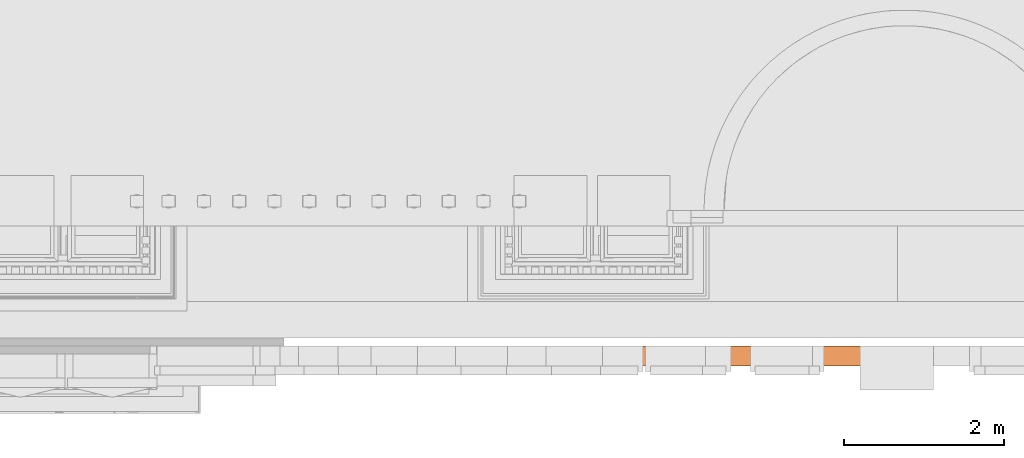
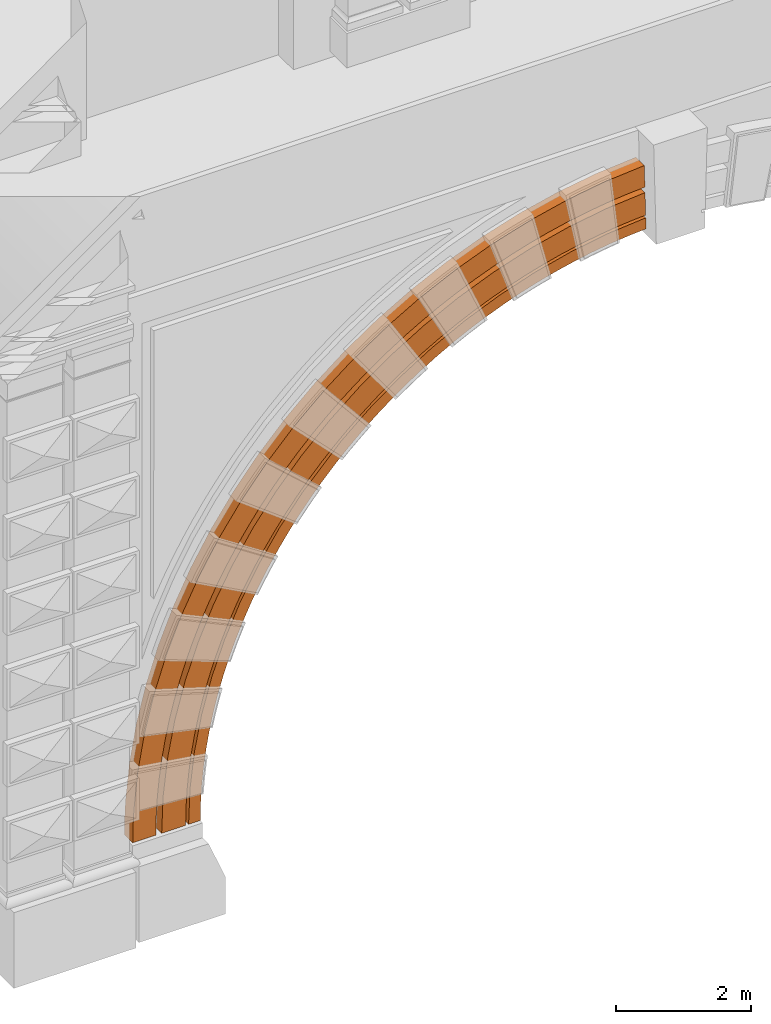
# One storey, part 26 of 44: 1 proxy.
"""IFC2X3 building model written with IfcOpenShell, lengths in metres."""

from ifc_helpers import new_model, entity, si_unit, converted_unit, derived_unit, direction, frame, origin, place, context, subcontext, project, spatial, faceted_brep, material, element, save


model = new_model("IFC2X3")

# Units and contexts
model_context = context("Model", 3, precision=1e-05, world=origin(), true_north=direction((6.12303176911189e-17, 1.0)))
body_context = subcontext(model_context, "Body", "Model", "MODEL_VIEW")
ifc_project = project(units=[si_unit("LENGTHUNIT", "METRE"), si_unit("AREAUNIT", "SQUARE_METRE"), si_unit("VOLUMEUNIT", "CUBIC_METRE"), converted_unit("PLANEANGLEUNIT", "DEGREE", entity("IfcRatioMeasure", 0.0174532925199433), si_unit("PLANEANGLEUNIT", "RADIAN"), dimensions=[0, 0, 0, 0, 0, 0, 0]), si_unit("MASSUNIT", "GRAM", prefix="KILO"), derived_unit("MASSDENSITYUNIT", [(si_unit("MASSUNIT", "GRAM", prefix="KILO"), 1), (si_unit("LENGTHUNIT", "METRE"), -3)]), si_unit("TIMEUNIT", "SECOND"), si_unit("FREQUENCYUNIT", "HERTZ"), si_unit("THERMODYNAMICTEMPERATUREUNIT", "DEGREE_CELSIUS"), derived_unit("THERMALTRANSMITTANCEUNIT", [(si_unit("MASSUNIT", "GRAM", prefix="KILO"), 1), (si_unit("THERMODYNAMICTEMPERATUREUNIT", "KELVIN"), -1), (si_unit("TIMEUNIT", "SECOND"), -3)]), derived_unit("VOLUMETRICFLOWRATEUNIT", [(si_unit("LENGTHUNIT", "METRE"), 3), (si_unit("TIMEUNIT", "SECOND"), -1)]), si_unit("ELECTRICCURRENTUNIT", "AMPERE"), si_unit("ELECTRICVOLTAGEUNIT", "VOLT"), si_unit("POWERUNIT", "WATT"), si_unit("FORCEUNIT", "NEWTON", prefix="KILO"), si_unit("ILLUMINANCEUNIT", "LUX"), si_unit("LUMINOUSFLUXUNIT", "LUMEN"), si_unit("LUMINOUSINTENSITYUNIT", "CANDELA"), derived_unit("USERDEFINED", [(si_unit("MASSUNIT", "GRAM", prefix="KILO"), -1), (si_unit("LENGTHUNIT", "METRE"), -2), (si_unit("TIMEUNIT", "SECOND"), 3), (si_unit("LUMINOUSFLUXUNIT", "LUMEN"), 1)]), derived_unit("LINEARVELOCITYUNIT", [(si_unit("LENGTHUNIT", "METRE"), 1), (si_unit("TIMEUNIT", "SECOND"), -1)]), si_unit("PRESSUREUNIT", "PASCAL"), derived_unit("USERDEFINED", [(si_unit("LENGTHUNIT", "METRE"), -2), (si_unit("MASSUNIT", "GRAM", prefix="KILO"), 1), (si_unit("TIMEUNIT", "SECOND"), -2)])], contexts=[model_context])

# Site, building, storey
site_placement = place(None, origin())
site = spatial("IfcSite", under=ifc_project, at=site_placement, Name="Default", CompositionType="ELEMENT")
building_placement = place(site_placement, origin())
building = spatial("IfcBuilding", under=site, at=building_placement, CompositionType="ELEMENT")
storey_placement = place(building_placement, origin())
storey = spatial("IfcBuildingStorey", under=building, at=storey_placement, Name="Livello 1", CompositionType="ELEMENT", Elevation=0.0)

# Proxy
ifc_material = material(Name="Travertino")
proxy_placement = place(storey_placement, frame((-9.27382478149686, -0.484467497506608, 1.634536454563)))
element("IfcBuildingElementProxy", 1, at=proxy_placement, inside=storey, material=ifc_material, Name="Stratigrafia", context=body_context, shape_type="Brep", body=[
    faceted_brep([(4.31823285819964, 0.0, 7.79170550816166), (4.63805328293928, 0.0, 7.52664900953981), (4.927465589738, 0.0, 7.69425371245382), (4.35522300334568, 0.0, 7.34816132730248), (3.76376381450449, 0.0, 7.41622764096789), (4.07938378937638, 0.0, 7.15904880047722), (5.50171563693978, 0.0, 8.41673717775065), (4.89857777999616, 0.0, 8.12580028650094), (5.22304136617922, 0.0, 7.85073304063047), (5.52435314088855, 0.0, 7.99586068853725), (3.29774781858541, 0.0, 6.53077159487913), (3.23811613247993, 0.0, 7.00136132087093), (2.74408218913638, 0.0, 6.54931042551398), (2.81863042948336, 0.0, 6.06420108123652), (3.05375247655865, 0.0, 6.30204229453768), (2.28428642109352, 0.0, 6.06247636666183), (3.8109345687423, 0.0, 6.95958492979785), (3.55026358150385, 0.0, 6.75005818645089), (8.07666089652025, 0.0, 9.12159776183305), (7.41534383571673, 0.0, 9.01633953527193), (7.75665487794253, 0.0, 8.67841648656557), (7.42777641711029, 0.0, 8.6176729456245), (7.10144539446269, 0.0, 8.54446855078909), (6.76344999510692, 0.0, 8.86319264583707), (8.08760514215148, 0.0, 8.72661132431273), (8.75380425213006, 0.0, 8.78509433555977), (8.74388808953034, 0.0, 9.17840816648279), (8.42014857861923, 0.0, 8.76218775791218), (6.12444240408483, 0.0, 8.66297064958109), (6.14243395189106, 0.0, 8.2512381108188), (6.45830909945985, 0.0, 8.36111854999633), (5.83096514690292, 0.0, 8.12942676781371), (6.7781337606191, 0.0, 8.45890917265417), (0.622892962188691, 0.0, 1.9909922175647), (0.367019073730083, 0.0, 2.5669820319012), (0.203597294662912, 0.0, 1.91758779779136), (0.0879094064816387, 0.0, 1.25801531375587), (0.496487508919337, 0.0, 1.33428590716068), (0.55344557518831, 0.0, 1.66384105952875), (0.577306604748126, 0.0, 3.20274826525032), (0.798836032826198, 0.0, 2.63619416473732), (0.905077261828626, 0.0, 2.95331184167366), (0.704729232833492, 0.0, 2.3152662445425), (0.452101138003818, 0.0, 1.0028033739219), (0.0205699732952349, 0.0, 0.591768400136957), (0.401281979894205, 0.0, 0.335975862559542), (0.00634017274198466, 0.0, 0.296834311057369), (0.394922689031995, 0.0, 0.0015952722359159), (0.0015952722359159, 0.0, 0.00159527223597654), (0.420350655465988, 0.0, 0.669872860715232), (1.86117138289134, 0.0, 5.54344533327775), (1.97347333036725, 0.0, 5.02878366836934), (2.16983737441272, 0.0, 5.2995085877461), (1.47698477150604, 0.0, 4.99497455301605), (1.787544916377, 0.0, 4.75078826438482), (1.61232102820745, 0.0, 4.46592442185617), (2.59272171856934, 0.0, 5.81759192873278), (2.37635306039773, 0.0, 5.56257149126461), (1.29498463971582, 0.0, 3.8772486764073), (1.13376748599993, 0.0, 4.41997764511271), (0.833342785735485, 0.0, 3.82150914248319), (1.02329927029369, 0.0, 3.26616064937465), (1.15333108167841, 0.0, 3.57428813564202), (1.44805508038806, 0.0, 4.1746041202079), (4.40886939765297, 0.0, 7.26375401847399), (4.69499767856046, 0.0, 6.96067453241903), (4.96519298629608, 0.0, 7.12791318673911), (4.43141495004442, 0.0, 6.78319659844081), (4.97443636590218, 0.0, 7.60595490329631), (5.56436771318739, 0.0, 7.90419716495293), (5.52382198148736, 0.0, 7.43070381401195), (5.24160331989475, 0.0, 7.28466649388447), (5.81143372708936, 0.0, 7.56581027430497), (3.36374637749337, 0.0, 6.45563171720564), (3.68416842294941, 0.0, 6.19201145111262), (3.92562822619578, 0.0, 6.39858210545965), (3.45080848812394, 0.0, 5.97633249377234), (2.89023188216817, 0.0, 5.99438182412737), (3.22589177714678, 0.0, 5.75186257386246), (3.87093618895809, 0.0, 6.87957267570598), (4.17483262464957, 0.0, 6.59574051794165), (8.09783852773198, 0.0, 8.62710915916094), (7.44566055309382, 0.0, 8.51926051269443), (7.93933447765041, 0.0, 8.19088817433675), (7.62618479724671, 0.0, 8.13692939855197), (7.31533487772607, 0.0, 8.07100065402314), (6.80356151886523, 0.0, 8.36217368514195), (8.25432316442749, 0.0, 8.23279758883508), (8.76666629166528, 0.0, 8.27493549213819), (8.75632538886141, 0.0, 8.68509618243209), (8.51016778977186, 0.0, 8.25784169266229), (6.17525321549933, 0.0, 8.15675675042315), (6.40113644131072, 0.0, 7.80245183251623), (6.70235974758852, 0.0, 7.9036387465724), (6.10401537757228, 0.0, 7.6897870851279), (7.00724208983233, 0.0, 7.99319894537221), (1.20195753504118, 0.0, 2.19944643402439), (0.894097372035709, 0.0, 2.60577185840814), (0.720218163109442, 0.0, 1.96801527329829), (1.05699663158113, 0.0, 1.58079075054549), (0.595295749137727, 0.0, 1.31889137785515), (1.1235433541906, 0.0, 1.89150895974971), (1.39390947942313, 0.0, 2.80517159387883), (1.29212379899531, 0.0, 2.50415008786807), (1.11592823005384, 0.0, 3.22847444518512), (0.959879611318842, 0.0, 0.952844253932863), (0.520052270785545, 0.0, 0.66215257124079), (0.494922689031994, 0.0, 0.00159527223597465), (0.911177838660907, 0.0, 0.319301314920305), (0.905083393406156, 0.0, 0.00159527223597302), (1.00241528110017, 0.0, 1.26774898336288), (0.929452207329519, 0.0, 0.636539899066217), (2.60504529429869, 0.0, 5.02907152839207), (2.45312995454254, 0.0, 5.49848934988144), (2.05496735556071, 0.0, 4.97082090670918), (2.2390776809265, 0.0, 4.50963315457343), (2.4170793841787, 0.0, 4.7728624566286), (1.69804574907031, 0.0, 4.41442679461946), (3.00974922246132, 0.0, 5.51893196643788), (2.80269884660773, 0.0, 5.27788339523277), (1.38442839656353, 0.0, 3.83252336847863), (1.6317231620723, 0.0, 3.394402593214), (1.76740125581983, 0.0, 3.68174511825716), (1.50716481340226, 0.0, 3.10206804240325), (2.0713020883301, 0.0, 4.23977092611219), (1.91399946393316, 0.0, 3.9636728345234), (5.10671443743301, 0.0, 7.15240246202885), (4.56241457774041, 0.0, 6.81287864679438), (4.93416853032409, 0.0, 6.81641642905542), (4.67204018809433, 0.0, 6.64556576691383), (5.20275065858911, 0.0, 6.97693078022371), (5.67579430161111, 0.0, 7.44852214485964), (5.75763762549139, 0.0, 7.26599276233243), (6.04310084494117, 0.0, 7.39410196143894), (5.47737920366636, 0.0, 7.12686536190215), (3.92830113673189, 0.0, 6.07366328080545), (3.56119962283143, 0.0, 6.01211296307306), (3.69585690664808, 0.0, 5.86420947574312), (4.04619852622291, 0.0, 6.43201154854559), (3.47174465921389, 0.0, 5.64586360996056), (3.22990824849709, 0.0, 5.6634151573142), (4.41676321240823, 0.0, 6.46463792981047), (4.16872479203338, 0.0, 6.27390733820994), (8.12901903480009, 0.0, 8.16718089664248), (7.49654631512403, 0.0, 8.05986352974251), (7.84046542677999, 0.0, 7.92169843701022), (7.53309560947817, 0.0, 7.86317483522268), (8.14988093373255, 0.0, 7.96820930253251), (8.77296941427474, 0.0, 8.02492897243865), (8.76792690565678, 0.0, 8.22493460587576), (8.46087282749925, 0.0, 8.0026368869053), (6.26619995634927, 0.0, 7.69944030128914), (6.62790254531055, 0.0, 7.61650552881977), (6.87434774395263, 0.0, 7.90363390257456), (6.33333588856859, 0.0, 7.51099865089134), (7.22823768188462, 0.0, 7.7927272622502), (6.92635403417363, 0.0, 7.71046256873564), (1.451825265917, 0.0, 2.16494125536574), (1.35189442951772, 0.0, 2.52693148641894), (1.17908272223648, 0.0, 1.90913307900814), (1.30694276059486, 0.0, 1.55628253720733), (1.05489104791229, 0.0, 1.27975625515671), (1.37345678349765, 0.0, 1.86202278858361), (1.64363235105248, 0.0, 2.7604800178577), (1.54192934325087, 0.0, 2.46457848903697), (1.57227723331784, 0.0, 3.12940155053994), (1.20986349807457, 0.0, 0.938195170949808), (0.980073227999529, 0.0, 0.642621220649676), (0.955083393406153, 0.0, 0.00159527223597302), (1.16117623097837, 0.0, 0.314427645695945), (1.15508339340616, 0.0, 0.00159527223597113), (1.25238408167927, 0.0, 1.24818422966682), (1.17944550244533, 0.0, 0.626785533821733), (2.50408205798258, 0.0, 4.80887050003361), (2.48758974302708, 0.0, 4.43278782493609), (2.66521364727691, 0.0, 4.69037463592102), (2.15012476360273, 0.0, 4.27384433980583), (2.85273275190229, 0.0, 4.94084978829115), (3.25630431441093, 0.0, 5.41895685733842), (2.89861687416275, 0.0, 5.31471735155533), (3.04986263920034, 0.0, 5.18383337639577), (1.83889344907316, 0.0, 3.71288638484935), (1.881200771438, 0.0, 3.33928708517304), (2.01670585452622, 0.0, 3.62131472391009), (1.75678003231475, 0.0, 3.05219703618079), (2.3201304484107, 0.0, 4.16848004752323), (2.16308975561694, 0.0, 3.89785218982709), (1.15508339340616, 0.25, 0.00159527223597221), (0.0015952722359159, 0.25, 0.00159527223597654), (0.00634017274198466, 0.25, 0.296834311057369), (0.0205699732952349, 0.25, 0.591768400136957), (0.0879094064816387, 0.25, 1.25801531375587), (0.203597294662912, 0.25, 1.91758779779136), (0.367019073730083, 0.25, 2.5669820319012), (0.577306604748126, 0.25, 3.20274826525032), (0.833342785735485, 0.25, 3.82150914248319), (1.13376748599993, 0.25, 4.41997764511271), (1.47698477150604, 0.25, 4.99497455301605), (1.86117138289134, 0.25, 5.54344533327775), (2.28428642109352, 0.25, 6.06247636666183), (2.74408218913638, 0.25, 6.54931042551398), (3.23811613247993, 0.25, 7.00136132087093), (3.76376381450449, 0.25, 7.41622764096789), (4.31823285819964, 0.25, 7.79170550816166), (4.89857777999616, 0.25, 8.12580028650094), (5.50171563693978, 0.25, 8.41673717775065), (6.12444240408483, 0.25, 8.66297064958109), (6.76344999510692, 0.25, 8.86319264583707), (7.41534383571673, 0.25, 9.01633953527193), (8.07666089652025, 0.25, 9.12159776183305), (8.74388808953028, 0.25, 9.17840816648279), (8.77296941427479, 0.25, 8.02492897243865), (8.4608728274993, 0.25, 8.0026368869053), (8.1498809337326, 0.25, 7.96820930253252), (7.84046542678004, 0.25, 7.92169843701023), (7.53309560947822, 0.25, 7.86317483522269), (7.22823768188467, 0.25, 7.79272726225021), (6.92635403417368, 0.25, 7.71046256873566), (6.6279025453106, 0.25, 7.61650552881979), (6.33333588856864, 0.25, 7.51099865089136), (6.04310084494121, 0.25, 7.39410196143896), (5.75763762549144, 0.25, 7.26599276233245), (5.47737920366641, 0.25, 7.12686536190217), (5.20275065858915, 0.25, 6.97693078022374), (4.93416853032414, 0.25, 6.81641642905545), (4.67204018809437, 0.25, 6.64556576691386), (4.41676321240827, 0.25, 6.4646379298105), (4.16872479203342, 0.25, 6.27390733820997), (3.92830113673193, 0.25, 6.07366328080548), (3.69585690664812, 0.25, 5.86420947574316), (3.47174465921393, 0.25, 5.6458636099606), (3.25630431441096, 0.25, 5.41895685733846), (3.04986263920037, 0.25, 5.18383337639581), (2.85273275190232, 0.25, 4.94084978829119), (2.66521364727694, 0.25, 4.69037463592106), (2.48758974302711, 0.25, 4.43278782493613), (2.32013044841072, 0.25, 4.16848004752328), (2.16308975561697, 0.25, 3.89785218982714), (2.01670585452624, 0.25, 3.62131472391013), (1.88120077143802, 0.25, 3.33928708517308), (1.75678003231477, 0.25, 3.05219703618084), (1.6436323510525, 0.25, 2.76048001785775), (1.54192934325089, 0.25, 2.46457848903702), (1.45182526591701, 0.25, 2.16494125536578), (1.37345678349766, 0.25, 1.86202278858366), (1.30694276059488, 0.25, 1.55628253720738), (1.25238408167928, 0.25, 1.24818422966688), (1.20986349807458, 0.25, 0.938195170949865), (1.17944550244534, 0.25, 0.626785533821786), (1.16117623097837, 0.25, 0.314427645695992), (8.76666629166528, 0.170061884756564, 8.27493549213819), (8.76792690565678, 0.170061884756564, 8.22493460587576), (8.75380425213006, 0.170061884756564, 8.78509433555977), (8.75632538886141, 0.170061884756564, 8.68509618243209), (0.394922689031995, 0.170061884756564, 0.00159527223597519), (0.955083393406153, 0.170061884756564, 0.00159527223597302), (0.905083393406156, 0.170061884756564, 0.00159527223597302), (0.494922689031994, 0.170061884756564, 0.00159527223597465), (8.5101753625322, 0.170061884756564, 8.25784231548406), (8.25432316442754, 0.170061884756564, 8.23279758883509), (7.93933447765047, 0.170061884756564, 8.19088817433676), (7.62618479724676, 0.170061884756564, 8.13692939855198), (7.31533487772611, 0.170061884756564, 8.07100065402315), (7.00724208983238, 0.170061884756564, 7.99319894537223), (6.70235974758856, 0.170061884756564, 7.90363874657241), (6.40113644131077, 0.170061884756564, 7.80245183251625), (6.10401537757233, 0.170061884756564, 7.68978708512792), (5.8114337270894, 0.170061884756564, 7.56581027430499), (5.52382198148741, 0.170061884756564, 7.43070381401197), (5.2416033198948, 0.170061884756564, 7.2846664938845), (4.96519298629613, 0.170061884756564, 7.12791318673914), (4.69499767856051, 0.170061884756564, 6.96067453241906), (4.43141495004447, 0.170061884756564, 6.78319659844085), (4.17483262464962, 0.170061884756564, 6.59574051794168), (3.92562822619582, 0.170061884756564, 6.39858210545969), (3.68416842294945, 0.170061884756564, 6.19201145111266), (3.45080848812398, 0.170061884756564, 5.97633249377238), (3.22589177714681, 0.170061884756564, 5.7518625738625), (3.00974922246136, 0.170061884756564, 5.51893196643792), (2.80269884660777, 0.170061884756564, 5.27788339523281), (2.60504529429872, 0.170061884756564, 5.02907152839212), (2.41707938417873, 0.170061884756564, 4.77286245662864), (2.23907768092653, 0.170061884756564, 4.50963315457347), (2.07130208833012, 0.170061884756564, 4.23977092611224), (1.91399946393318, 0.170061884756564, 3.96367283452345), (1.76740125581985, 0.170061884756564, 3.68174511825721), (1.63172316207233, 0.170061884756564, 3.39440259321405), (1.50716481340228, 0.170061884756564, 3.10206804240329), (1.39390947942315, 0.170061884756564, 2.80517159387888), (1.29212379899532, 0.170061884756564, 2.50415008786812), (1.20195753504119, 0.170061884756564, 2.19944643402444), (1.12354335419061, 0.170061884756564, 1.89150895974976), (1.05699663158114, 0.170061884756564, 1.58079075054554), (1.00241528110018, 0.170061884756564, 1.26774898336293), (0.959879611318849, 0.170061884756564, 0.952844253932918), (0.929452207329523, 0.170061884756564, 0.636539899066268), (0.91117783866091, 0.170061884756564, 0.319301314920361), (0.980073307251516, 0.170061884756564, 0.64262223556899), (1.05489136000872, 0.170061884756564, 1.27975824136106), (1.17908341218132, 0.170061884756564, 1.90913597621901), (1.35189563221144, 0.170061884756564, 2.52693521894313), (1.57227907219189, 0.170061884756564, 3.12940602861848), (1.83889603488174, 0.170061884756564, 3.71289150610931), (2.15012819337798, 0.170061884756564, 4.27384999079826), (2.50408641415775, 0.170061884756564, 4.80887655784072), (2.89862222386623, 0.170061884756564, 5.31472368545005), (3.22991438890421, 0.170061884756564, 5.66342156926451), (3.56120655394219, 0.170061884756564, 6.01211945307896), (4.04620654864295, 0.170061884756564, 6.43201796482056), (4.56242370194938, 0.170061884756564, 6.81288484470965), (5.10672465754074, 0.170061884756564, 7.15240829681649), (5.67580559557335, 0.170061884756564, 7.44852747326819), (6.26621228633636, 0.170061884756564, 7.69944498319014), (6.8743610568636, 0.170061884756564, 7.90363780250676), (7.49656054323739, 0.170061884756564, 8.05986651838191), (8.12903409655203, 0.170061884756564, 8.16718285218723), (4.45104082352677, 0.170061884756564, 7.4103208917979), (4.17947104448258, 0.170061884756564, 7.22945663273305), (3.91479744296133, 0.170061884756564, 7.03864281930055), (3.65738435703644, 0.170061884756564, 6.83814211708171), (3.40758613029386, 0.170061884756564, 6.6282305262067), (3.16574662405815, 0.170061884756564, 6.40919700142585), (2.9321987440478, 0.170061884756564, 6.18134305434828), (2.70726398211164, 0.170061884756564, 5.94498233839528), (2.49125197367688, 0.170061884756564, 5.70044021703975), (2.28446007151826, 0.170061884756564, 5.4480533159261), (2.08717293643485, 0.170061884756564, 5.18816905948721), (1.89966214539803, 0.170061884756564, 4.92114519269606), (1.72218581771, 0.170061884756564, 4.64734928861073), (1.55498825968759, 0.170061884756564, 4.36715824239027), (1.39829962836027, 0.170061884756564, 4.08095775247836), (1.25233561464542, 0.170061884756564, 3.78914178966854), (1.11729714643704, 0.170061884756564, 3.49211205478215), (0.993370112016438, 0.170061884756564, 3.19027742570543), (0.880725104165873, 0.170061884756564, 2.88405339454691), (0.779517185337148, 0.170061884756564, 2.57386149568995), (0.689885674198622, 0.170061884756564, 2.26012872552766), (0.611953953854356, 0.170061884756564, 1.94328695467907), (0.545829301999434, 0.170061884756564, 1.62377233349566), (0.491602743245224, 0.170061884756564, 1.30202469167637), (0.449348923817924, 0.170061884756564, 0.978486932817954), (0.419126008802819, 0.170061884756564, 0.653604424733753), (0.400975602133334, 0.170061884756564, 0.327824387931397), (0.520052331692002, 0.170061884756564, 0.662153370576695), (0.595295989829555, 0.170061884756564, 1.31889294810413), (0.720218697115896, 0.170061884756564, 1.96801757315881), (0.89409830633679, 0.170061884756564, 2.6057748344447), (1.11592966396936, 0.170061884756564, 3.22847803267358), (1.38443042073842, 0.170061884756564, 3.83252749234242), (1.69804844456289, 0.170061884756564, 4.41443137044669), (2.05497079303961, 0.170061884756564, 4.9708258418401), (2.45313419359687, 0.170061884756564, 5.49849454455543), (2.89023697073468, 0.170061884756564, 5.99438717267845), (3.36375235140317, 0.170061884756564, 6.45563710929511), (3.87094307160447, 0.170061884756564, 6.87957799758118), (4.40887719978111, 0.170061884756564, 7.2637591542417), (4.97444508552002, 0.170061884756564, 7.60595973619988), (5.56437733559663, 0.170061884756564, 7.90420157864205), (6.17526371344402, 0.170061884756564, 8.15676063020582), (6.80357285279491, 0.170061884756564, 8.36217691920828), (7.44567267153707, 0.170061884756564, 8.51926299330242), (8.0978513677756, 0.170061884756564, 8.62711078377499), (8.42828735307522, 0.170061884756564, 8.76289841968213), (8.10380550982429, 0.170061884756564, 8.72864147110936), (7.78081777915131, 0.170061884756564, 8.68237126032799), (7.4597687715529, 0.170061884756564, 8.62415148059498), (7.14110042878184, 0.170061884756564, 8.55406227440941), (6.82525141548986, 0.170061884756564, 8.47220012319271), (6.51265651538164, 0.170061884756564, 8.37867771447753), (6.20374603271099, 0.170061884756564, 8.27362378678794), (5.89894519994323, 0.170061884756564, 8.15718295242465), (5.59867359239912, 0.170061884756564, 8.02951549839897), (5.30334455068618, 0.170061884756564, 7.89079716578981), (5.0133646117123, 0.170061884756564, 7.74121890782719), (4.72913294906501, 0.170061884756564, 7.58098662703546)], [[[0, 1, 2]], [[1, 0, 3]], [[4, 3, 0]], [[3, 4, 5]], [[6, 7, 8]], [[2, 8, 7]], [[7, 0, 2]], [[6, 8, 9]], [[10, 11, 12]], [[13, 14, 12]], [[12, 15, 13]], [[10, 12, 14]], [[5, 4, 16]], [[10, 17, 11]], [[16, 11, 17]], [[16, 4, 11]], [[18, 19, 20]], [[19, 21, 20]], [[22, 19, 23]], [[18, 20, 24]], [[25, 26, 27]], [[27, 26, 18]], [[18, 24, 27]], [[28, 29, 30]], [[29, 28, 31]], [[31, 28, 6]], [[6, 9, 31]], [[21, 19, 22]], [[32, 23, 30]], [[23, 32, 22]], [[28, 30, 23]], [[33, 34, 35]], [[36, 37, 38]], [[38, 35, 36]], [[33, 35, 38]], [[39, 40, 41]], [[39, 34, 40]], [[40, 34, 42]], [[34, 33, 42]], [[43, 36, 44]], [[45, 44, 46]], [[47, 46, 48]], [[49, 43, 44]], [[47, 45, 46]], [[49, 44, 45]], [[36, 43, 37]], [[50, 51, 52]], [[51, 50, 53]], [[53, 54, 51]], [[54, 53, 55]], [[15, 56, 13]], [[56, 15, 57]], [[57, 15, 50]], [[50, 52, 57]], [[58, 59, 60]], [[61, 60, 39]], [[39, 41, 61]], [[62, 60, 61]], [[63, 55, 59]], [[62, 58, 60]], [[63, 59, 58]], [[59, 55, 53]], [[64, 65, 66]], [[65, 64, 67]], [[64, 66, 68]], [[69, 68, 70]], [[71, 70, 68]], [[68, 66, 71]], [[69, 70, 72]], [[73, 74, 75]], [[74, 73, 76]], [[77, 76, 73]], [[76, 77, 78]], [[79, 67, 64]], [[67, 79, 80]], [[75, 80, 79]], [[79, 73, 75]], [[81, 82, 83]], [[82, 84, 83]], [[85, 82, 86]], [[81, 83, 87]], [[88, 89, 90]], [[90, 89, 81]], [[81, 87, 90]], [[91, 92, 93]], [[92, 91, 94]], [[94, 91, 69]], [[69, 72, 94]], [[84, 82, 85]], [[95, 86, 93]], [[86, 95, 85]], [[91, 93, 86]], [[96, 97, 98]], [[99, 98, 100]], [[101, 98, 99]], [[102, 97, 103]], [[102, 104, 97]], [[103, 97, 96]], [[98, 101, 96]], [[105, 100, 106]], [[106, 107, 108]], [[109, 108, 107]], [[105, 110, 100]], [[108, 111, 106]], [[105, 106, 111]], [[100, 110, 99]], [[112, 113, 114]], [[115, 116, 114]], [[114, 117, 115]], [[112, 114, 116]], [[78, 77, 118]], [[112, 119, 113]], [[118, 113, 119]], [[118, 77, 113]], [[120, 121, 122]], [[120, 104, 121]], [[121, 104, 123]], [[104, 102, 123]], [[117, 124, 115]], [[124, 117, 125]], [[125, 117, 120]], [[120, 122, 125]], [[126, 127, 128]], [[128, 127, 129]], [[126, 128, 130]], [[131, 132, 133]], [[132, 131, 134]], [[134, 131, 126]], [[126, 130, 134]], [[135, 136, 137]], [[136, 135, 138]], [[139, 137, 136]], [[139, 136, 140]], [[129, 127, 141]], [[138, 142, 141]], [[142, 138, 135]], [[127, 138, 141]], [[143, 144, 145]], [[145, 144, 146]], [[143, 145, 147]], [[148, 149, 150]], [[150, 149, 143]], [[143, 147, 150]], [[151, 152, 153]], [[152, 151, 154]], [[133, 154, 151]], [[151, 131, 133]], [[155, 144, 153]], [[144, 155, 146]], [[156, 155, 153]], [[153, 152, 156]], [[157, 158, 159]], [[160, 159, 161]], [[162, 159, 160]], [[163, 158, 164]], [[163, 165, 158]], [[164, 158, 157]], [[159, 162, 157]], [[166, 161, 167]], [[167, 168, 169]], [[170, 169, 168]], [[166, 171, 161]], [[169, 172, 167]], [[166, 167, 172]], [[161, 171, 160]], [[173, 174, 175]], [[174, 173, 176]], [[173, 175, 177]], [[178, 179, 180]], [[179, 178, 139]], [[177, 180, 179]], [[179, 173, 177]], [[181, 182, 183]], [[181, 165, 182]], [[182, 165, 184]], [[165, 163, 184]], [[176, 185, 174]], [[185, 176, 186]], [[186, 176, 181]], [[181, 183, 186]], [[139, 140, 179]], [[187, 188, 189, 190, 191, 192, 193, 194, 195, 196, 197, 198, 199, 200, 201, 202, 203, 204, 205, 206, 207, 208, 209, 210, 211, 212, 213, 214, 215, 216, 217, 218, 219, 220, 221, 222, 223, 224, 225, 226, 227, 228, 229, 230, 231, 232, 233, 234, 235, 236, 237, 238, 239, 240, 241, 242, 243, 244, 245, 246, 247, 248, 249]], [[171, 246, 245, 160]], [[162, 244, 243, 157]], [[162, 160, 245, 244]], [[157, 243, 242, 164]], [[169, 170, 187, 249]], [[166, 172, 248, 247]], [[249, 248, 172, 169]], [[166, 247, 246, 171]], [[163, 164, 242, 241]], [[174, 185, 236, 235]], [[177, 175, 234, 233]], [[235, 234, 175, 174]], [[180, 177, 233, 232]], [[182, 184, 240, 239]], [[238, 237, 186, 183]], [[182, 239, 238, 183]], [[185, 186, 237, 236]], [[184, 163, 241, 240]], [[178, 180, 232, 231]], [[231, 230, 139, 178]], [[141, 226, 225, 129]], [[128, 224, 223, 130]], [[128, 129, 225, 224]], [[130, 223, 222, 134]], [[137, 139, 230, 229]], [[142, 135, 228, 227]], [[229, 228, 135, 137]], [[142, 227, 226, 141]], [[132, 134, 222, 221]], [[146, 155, 216, 215]], [[147, 145, 214, 213]], [[215, 214, 145, 146]], [[150, 147, 213, 212]], [[154, 133, 220, 219]], [[218, 217, 156, 152]], [[154, 219, 218, 152]], [[155, 156, 217, 216]], [[133, 132, 221, 220]], [[148, 150, 212, 211]], [[89, 88, 250, 251, 149, 148, 211, 210, 26, 25, 252, 253]], [[23, 19, 208, 207]], [[18, 26, 210, 209]], [[208, 19, 18, 209]], [[28, 23, 207, 206]], [[203, 202, 4, 0]], [[7, 6, 205, 204]], [[0, 7, 204, 203]], [[206, 205, 6, 28]], [[11, 4, 202, 201]], [[201, 200, 12, 11]], [[59, 53, 197, 196]], [[50, 15, 199, 198]], [[197, 53, 50, 198]], [[60, 59, 196, 195]], [[192, 191, 36, 35]], [[34, 39, 194, 193]], [[35, 34, 193, 192]], [[195, 194, 39, 60]], [[44, 36, 191, 190]], [[200, 199, 15, 12]], [[44, 190, 189, 46]], [[189, 188, 48, 46]], [[254, 47, 48, 188, 187, 170, 168, 255, 256, 109, 107, 257]], [[258, 259, 260, 261, 262, 263, 264, 265, 266, 267, 268, 269, 270, 271, 272, 273, 274, 275, 276, 277, 278, 279, 280, 281, 282, 283, 284, 285, 286, 287, 288, 289, 290, 291, 292, 293, 294, 295, 296, 256, 255, 297, 298, 299, 300, 301, 302, 303, 304, 305, 306, 307, 308, 309, 310, 311, 312, 313, 314, 315, 251, 250]], [[316, 317, 318, 319, 320, 321, 322, 323, 324, 325, 326, 327, 328, 329, 330, 331, 332, 333, 334, 335, 336, 337, 338, 339, 340, 341, 342, 254, 257, 343, 344, 345, 346, 347, 348, 349, 350, 351, 352, 353, 354, 355, 356, 357, 358, 359, 360, 361, 253, 252, 362, 363, 364, 365, 366, 367, 368, 369, 370, 371, 372, 373, 374]], [[264, 93, 92, 265]], [[265, 92, 94, 266]], [[266, 94, 72, 267]], [[261, 260, 83, 84]], [[263, 262, 85, 95]], [[84, 85, 262, 261]], [[263, 95, 93, 264]], [[268, 267, 72, 70]], [[274, 273, 80, 75]], [[276, 275, 74, 76]], [[75, 74, 275, 274]], [[277, 276, 76, 78]], [[270, 269, 71, 66]], [[65, 67, 272, 271]], [[270, 66, 65, 271]], [[273, 272, 67, 80]], [[269, 268, 70, 71]], [[278, 277, 78, 118]], [[87, 83, 260, 259]], [[283, 124, 125, 284]], [[284, 125, 122, 285]], [[285, 122, 121, 286]], [[280, 279, 119, 112]], [[282, 281, 116, 115]], [[112, 116, 281, 280]], [[282, 115, 124, 283]], [[287, 286, 121, 123]], [[293, 292, 99, 110]], [[295, 294, 105, 111]], [[110, 105, 294, 293]], [[296, 295, 111, 108]], [[289, 288, 102, 103]], [[96, 101, 291, 290]], [[289, 103, 96, 290]], [[292, 291, 101, 99]], [[288, 287, 123, 102]], [[256, 296, 108, 109]], [[119, 279, 278, 118]], [[298, 161, 159]], [[255, 168, 167]], [[161, 297, 167]], [[299, 159, 158]], [[176, 173, 303]], [[301, 165, 181]], [[302, 181, 176]], [[158, 165, 300]], [[304, 173, 179]], [[305, 179, 140]], [[255, 167, 297]], [[298, 297, 161]], [[159, 299, 298]], [[300, 299, 158]], [[136, 306, 140]], [[165, 301, 300]], [[301, 181, 302]], [[303, 302, 176]], [[304, 303, 173]], [[179, 305, 304]], [[306, 136, 307]], [[309, 127, 126]], [[307, 136, 138]], [[127, 308, 138]], [[310, 126, 131]], [[144, 143, 314]], [[312, 151, 153]], [[313, 153, 144]], [[131, 151, 311]], [[315, 143, 149]], [[307, 138, 308]], [[309, 308, 127]], [[126, 310, 309]], [[311, 310, 131]], [[151, 312, 311]], [[312, 153, 313]], [[314, 313, 144]], [[315, 314, 143]], [[149, 251, 315]], [[305, 140, 306]], [[258, 250, 88]], [[90, 258, 88]], [[87, 259, 90]], [[258, 90, 259]], [[345, 98, 97]], [[343, 106, 100]], [[98, 344, 100]], [[346, 97, 104]], [[114, 113, 350]], [[348, 120, 117]], [[349, 117, 114]], [[104, 120, 347]], [[351, 113, 77]], [[107, 106, 257]], [[343, 257, 106]], [[100, 344, 343]], [[345, 344, 98]], [[346, 345, 97]], [[347, 346, 104]], [[347, 120, 348]], [[349, 348, 117]], [[350, 349, 114]], [[113, 351, 350]], [[77, 352, 351]], [[355, 64, 68]], [[353, 73, 79]], [[64, 354, 79]], [[356, 68, 69]], [[82, 81, 360]], [[358, 91, 86]], [[359, 86, 82]], [[69, 91, 357]], [[361, 81, 89]], [[352, 73, 353]], [[354, 353, 79]], [[64, 355, 354]], [[356, 355, 68]], [[357, 356, 69]], [[358, 357, 91]], [[358, 86, 359]], [[360, 359, 82]], [[361, 360, 81]], [[89, 253, 361]], [[73, 352, 77]], [[366, 22, 367]], [[368, 30, 369]], [[368, 367, 32]], [[369, 29, 370]], [[363, 362, 27]], [[365, 364, 20]], [[24, 364, 363]], [[365, 21, 366]], [[371, 370, 31]], [[318, 317, 5]], [[320, 319, 17]], [[16, 319, 318]], [[321, 320, 10]], [[373, 372, 8]], [[1, 316, 374]], [[373, 2, 374]], [[317, 316, 3]], [[372, 371, 9]], [[322, 321, 14]], [[25, 362, 252]], [[362, 25, 27]], [[27, 24, 363]], [[364, 24, 20]], [[20, 21, 365]], [[22, 366, 21]], [[367, 22, 32]], [[368, 32, 30]], [[369, 30, 29]], [[29, 31, 370]], [[9, 371, 31]], [[372, 9, 8]], [[2, 373, 8]], [[1, 374, 2]], [[3, 316, 1]], [[3, 5, 317]], [[16, 318, 5]], [[17, 319, 16]], [[320, 17, 10]], [[10, 14, 321]], [[14, 13, 322]], [[327, 54, 328]], [[329, 63, 330]], [[329, 328, 55]], [[330, 58, 331]], [[324, 323, 56]], [[326, 325, 52]], [[57, 325, 324]], [[326, 51, 327]], [[332, 331, 62]], [[339, 338, 37]], [[341, 340, 49]], [[43, 340, 339]], [[342, 341, 45]], [[334, 333, 41]], [[335, 334, 40]], [[33, 337, 336]], [[335, 42, 336]], [[338, 337, 38]], [[61, 333, 332]], [[254, 342, 47]], [[56, 323, 13]], [[324, 56, 57]], [[57, 52, 325]], [[326, 52, 51]], [[51, 54, 327]], [[55, 328, 54]], [[329, 55, 63]], [[330, 63, 58]], [[331, 58, 62]], [[62, 61, 332]], [[41, 333, 61]], [[334, 41, 40]], [[42, 335, 40]], [[33, 336, 42]], [[38, 337, 33]], [[38, 37, 338]], [[43, 339, 37]], [[49, 340, 43]], [[341, 49, 45]], [[45, 47, 342]], [[322, 13, 323]]]),
])

save(model, "model.ifc")
